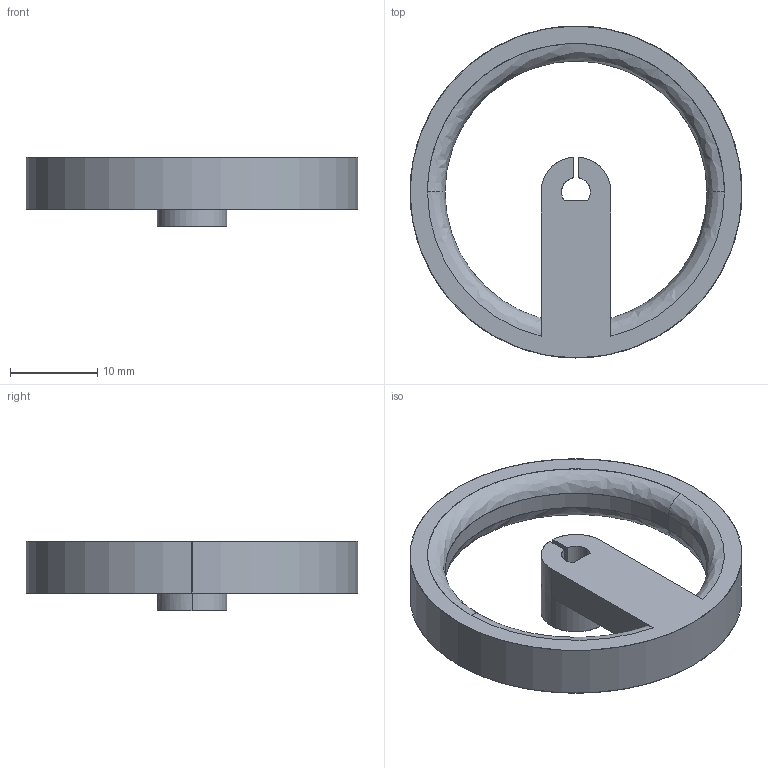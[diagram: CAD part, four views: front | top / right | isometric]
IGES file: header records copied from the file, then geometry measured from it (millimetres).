
Start section: SolidWorks IGES file using analytic representation for surfaces
Global section: file name: C:\Users\Colin\Dropbox\personal projects\Seeedstudio 2WD Robot\Production CAD\3D printed wheelv4_4_plain.IGS; native system: SolidWorks 2012; preprocessor: SolidWorks 2012; author: Colin; date: 120829.084220; units: millimetre
Bounding box: 38 x 38 x 8 mm (x, y, z)
Surface area: 2600.4 mm2 (no closed solid volume)
Topology: 0 solids, 0 shells, 25 faces, 470 edges, 470 vertices
Faces by surface type: bspline 14, revolution 11
